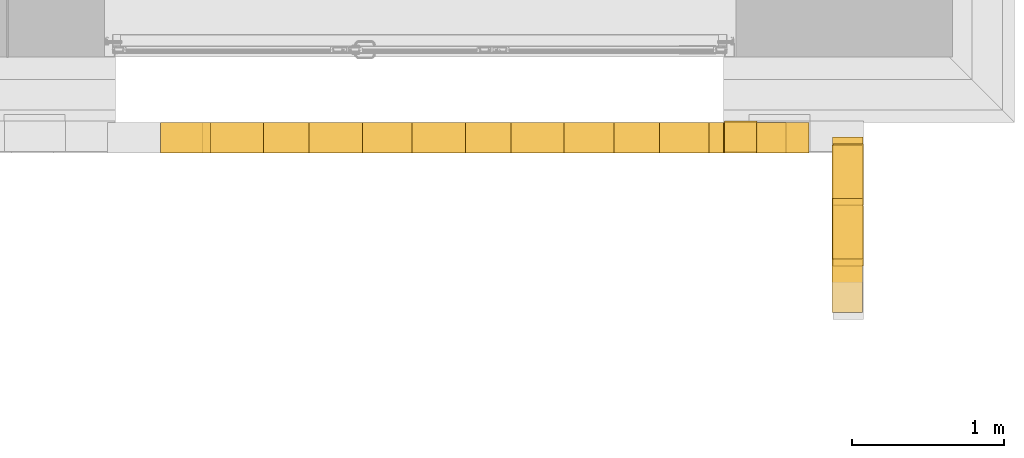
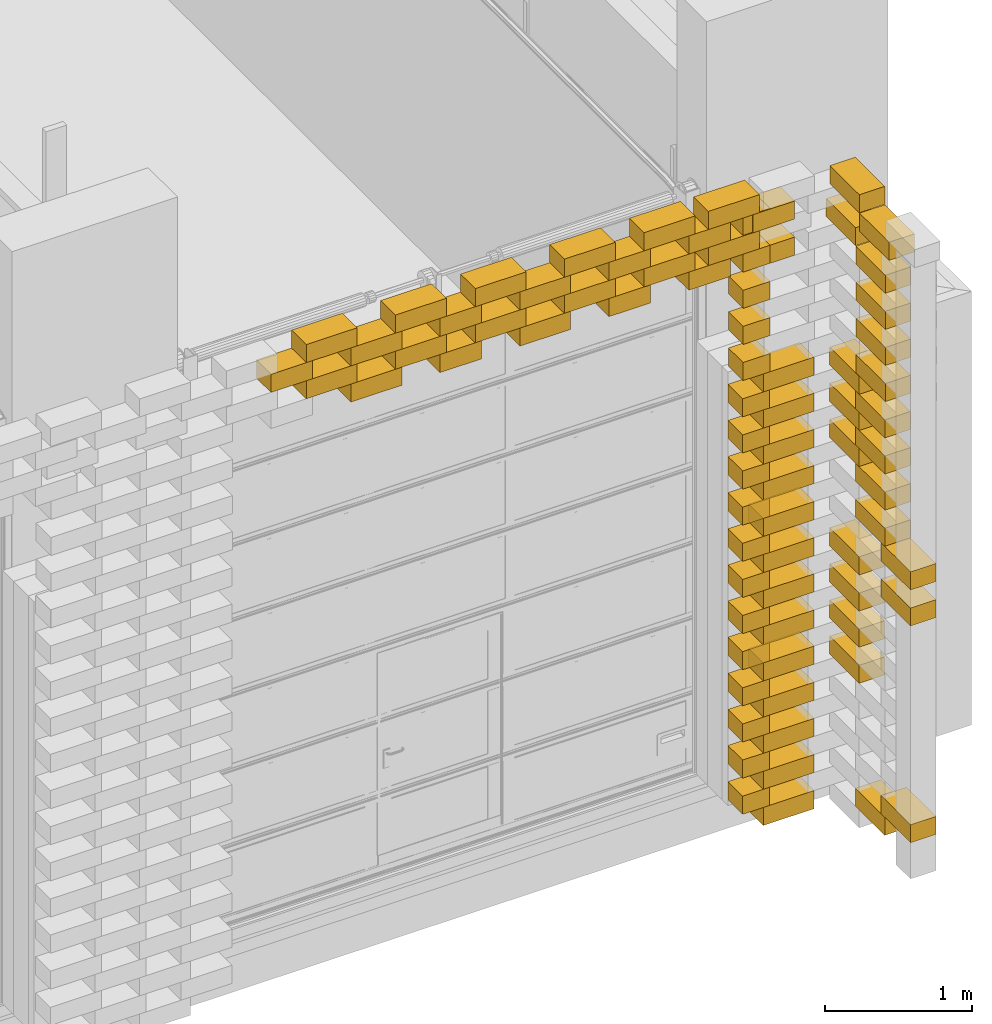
# One storey, part 56 of 62: 79 railings.
"""IFC2X3 building model written with IfcOpenShell, lengths in millimetres."""

from ifc_helpers import new_model, entity, si_unit, converted_unit, derived_unit, money_unit, direction, frame, origin_with_axes, place, context, subcontext, project, spatial, polyline, outline, extrude, material, type_object, element, save


model = new_model("IFC2X3")

# Units and contexts
model_context = context("Model", 3, precision=0.01, world=origin_with_axes(), true_north=direction((0.0, 1.0)))
body_context = subcontext(model_context, "Body", "Model", "MODEL_VIEW")
ifc_project = project(units=[si_unit("LENGTHUNIT", "METRE", prefix="MILLI"), si_unit("AREAUNIT", "SQUARE_METRE"), si_unit("VOLUMEUNIT", "CUBIC_METRE"), converted_unit("PLANEANGLEUNIT", "DEGREE", entity("IfcPlaneAngleMeasure", 0.0174532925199), si_unit("PLANEANGLEUNIT", "RADIAN"), dimensions=[0, 0, 0, 0, 0, 0, 0]), si_unit("SOLIDANGLEUNIT", "STERADIAN"), money_unit("EUR"), converted_unit("TIMEUNIT", "Year", entity("IfcTimeMeasure", 31556926.0), si_unit("TIMEUNIT", "SECOND"), dimensions=[0, 0, 1, 0, 0, 0, 0]), si_unit("MASSUNIT", "GRAM", prefix="KILO"), si_unit("THERMODYNAMICTEMPERATUREUNIT", "DEGREE_CELSIUS"), si_unit("LUMINOUSINTENSITYUNIT", "LUMEN"), si_unit("ENERGYUNIT", "JOULE", prefix="MEGA"), derived_unit("THERMALCONDUCTANCEUNIT", [(si_unit("POWERUNIT", "WATT"), 1), (si_unit("LENGTHUNIT", "METRE"), -1), (si_unit("THERMODYNAMICTEMPERATUREUNIT", "KELVIN"), -1)]), derived_unit("SPECIFICHEATCAPACITYUNIT", [(si_unit("ENERGYUNIT", "JOULE"), 1), (si_unit("MASSUNIT", "GRAM", prefix="KILO"), -1), (si_unit("THERMODYNAMICTEMPERATUREUNIT", "KELVIN"), -1)]), derived_unit("MASSDENSITYUNIT", [(si_unit("MASSUNIT", "GRAM", prefix="KILO"), 1), (si_unit("VOLUMEUNIT", "CUBIC_METRE"), -1)])], contexts=[model_context])

# Site, building, storey
site_placement = place(None, origin_with_axes())
site = spatial("IfcSite", under=ifc_project, at=site_placement, Name="KIRDE 14, ELVA", CompositionType="ELEMENT")
building_placement = place(site_placement, origin_with_axes())
building = spatial("IfcBuilding", under=site, at=building_placement, Name="PPA ja Päästeameti ühishoone", CompositionType="ELEMENT")
storey_placement = place(building_placement, origin_with_axes())
storey = spatial("IfcBuildingStorey", under=building, at=storey_placement, Name="Esimene korrus", CompositionType="ELEMENT", Elevation=0.0)

# Railings
ifc_material = material(Name="Air Space")
railing_type = type_object("IfcRailingType", Name="Air Space 200", PredefinedType="NOTDEFINED")
railing_1_placement = place(storey_placement, frame((38722.9681009, -431.00009935, 2300.0), z_axis=(0.0, 0.0, 1.0), x_axis=(1.0, 0.0, 0.0)))
element("IfcRailing", 1, at=railing_1_placement, inside=storey, type_object=railing_type, material=ifc_material, Name="plokk", PredefinedType="NOTDEFINED", context=body_context, shape_type="SweptSolid", body=[
    extrude(outline(polyline([(0.0, -200.0), (400.000000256, -200.0), (400.000000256, 0.0), (0.0, 0.0), (0.0, -200.0)])), origin_with_axes(), (0.0, 0.0, 1.0), 150.0),
])
for number, where, z_axis, x_axis in (
    (2, (39472.9681008, -931.000098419, 3050.0), (0.0, 0.0, 1.0), (7.27595759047e-10, -1.0, 0.0)),
    (3, (39479.506899, -976.365015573, 4850.0), (0.0, 0.0, 1.0), (7.27595759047e-10, -1.0, 0.0)),
):
    element("IfcRailing", number, at=place(storey_placement, frame(where, z_axis=z_axis, x_axis=x_axis)), inside=storey, type_object=railing_type, material=ifc_material, Name="plokk", PredefinedType="NOTDEFINED", context=body_context, shape_type="SweptSolid", body=[
        extrude(outline(polyline([(0.0, -200.0), (400.000001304, -200.0), (400.000001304, 0.0), (0.0, 0.0), (0.0, -200.0)])), origin_with_axes(), (0.0, 0.0, 1.0), 150.0),
    ])
railing_2_placement = place(storey_placement, frame((36810.2443816, -431.000095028, 4850.0), z_axis=(0.0, 0.0, 1.0), x_axis=(1.0, -2.32830643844e-09, 0.0)))
element("IfcRailing", 4, at=railing_2_placement, inside=storey, type_object=railing_type, material=ifc_material, Name="plokk", PredefinedType="NOTDEFINED", context=body_context, shape_type="SweptSolid", body=[
    extrude(outline(polyline([(0.0, -200.0), (399.999999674, -200.0), (399.999999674, 0.0), (0.0, 0.0), (0.0, -200.0)])), origin_with_axes(), (0.0, 0.0, 1.0), 150.0),
])
railing_3_placement = place(storey_placement, frame((39479.5068987, -572.760598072, 5000.0), z_axis=(0.0, 0.0, 1.0), x_axis=(-5.82076611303e-10, -1.0, 0.0)))
element("IfcRailing", 5, at=railing_3_placement, inside=storey, type_object=railing_type, material=ifc_material, Name="plokk", PredefinedType="NOTDEFINED", context=body_context, shape_type="SweptSolid", body=[
    extrude(outline(polyline([(0.0, -200.0), (399.99999851, -200.0), (399.99999851, 0.0), (0.0, 0.0), (0.0, -200.0)])), origin_with_axes(), (0.0, 0.0, 1.0), 150.0),
])
railing_4_placement = place(storey_placement, frame((39472.9681012, -1281.00009805, 2000.0), z_axis=(0.0, 0.0, 1.0), x_axis=(2.91038303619e-10, -1.0, 0.0)))
element("IfcRailing", 6, at=railing_4_placement, inside=storey, type_object=railing_type, material=ifc_material, Name="plokk", PredefinedType="NOTDEFINED", context=body_context, shape_type="SweptSolid", body=[
    extrude(outline(polyline([(0.0, -200.0), (400.000001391, -200.0), (400.000001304, 0.0), (0.0, 0.0), (0.0, -200.0)])), origin_with_axes(), (0.0, 0.0, 1.0), 150.0),
])
for number, where, z_axis, x_axis in (
    (7, (38560.5971019, -431.000098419, 3350.0), (0.0, 0.0, 1.0), (1.0, -8.77071331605e-09, 0.0)),
    (8, (38560.5971019, -431.000098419, 3050.0), (0.0, 0.0, 1.0), (1.0, -8.77071331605e-09, 0.0)),
    (9, (38560.5971019, -431.000098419, 2750.0), (0.0, 0.0, 1.0), (1.0, -8.77071331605e-09, 0.0)),
):
    element("IfcRailing", number, at=place(storey_placement, frame(where, z_axis=z_axis, x_axis=x_axis)), inside=storey, type_object=railing_type, material=ifc_material, Name="plokk", PredefinedType="NOTDEFINED", context=body_context, shape_type="SweptSolid", body=[
        extrude(outline(polyline([(0.0, -200.0), (212.370999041, -200.0), (212.370999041, 0.0), (0.0, 0.0), (0.0, -200.0)])), origin_with_axes(), (0.0, 0.0, 1.0), 150.0),
    ])
railing_5_placement = place(storey_placement, frame((39472.9681005, -581.000099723, 1700.0), z_axis=(0.0, 0.0, 1.0), x_axis=(-5.82076611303e-10, -1.0, 0.0)))
element("IfcRailing", 10, at=railing_5_placement, inside=storey, type_object=railing_type, material=ifc_material, Name="plokk", PredefinedType="NOTDEFINED", context=body_context, shape_type="SweptSolid", body=[
    extrude(outline(polyline([(0.0, -200.0), (399.99999851, -200.0), (399.99999851, 0.0), (0.0, 0.0), (0.0, -200.0)])), origin_with_axes(), (0.0, 0.0, 1.0), 150.0),
])
railing_6_placement = place(storey_placement, frame((35483.0397453, -431.000095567, 4850.0), z_axis=(0.0, 0.0, 1.0), x_axis=(1.0, -2.32830643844e-09, 0.0)))
element("IfcRailing", 11, at=railing_6_placement, inside=storey, type_object=railing_type, material=ifc_material, Name="plokk", PredefinedType="NOTDEFINED", context=body_context, shape_type="SweptSolid", body=[
    extrude(outline(polyline([(0.0, -200.0), (399.999999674, -200.0), (399.999999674, 0.0), (0.0, 0.0), (0.0, -200.0)])), origin_with_axes(), (0.0, 0.0, 1.0), 150.0),
])
railing_7_placement = place(storey_placement, frame((39472.9681005, -581.000099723, 3500.0), z_axis=(0.0, 0.0, 1.0), x_axis=(-5.82076611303e-10, -1.0, 0.0)))
element("IfcRailing", 12, at=railing_7_placement, inside=storey, type_object=railing_type, material=ifc_material, Name="plokk", PredefinedType="NOTDEFINED", context=body_context, shape_type="SweptSolid", body=[
    extrude(outline(polyline([(0.0, -200.0), (399.99999851, -200.0), (399.99999851, 0.0), (0.0, 0.0), (0.0, -200.0)])), origin_with_axes(), (0.0, 0.0, 1.0), 150.0),
])
railing_8_placement = place(storey_placement, frame((38722.9681009, -431.00009935, 3500.0), z_axis=(0.0, 0.0, 1.0), x_axis=(1.0, 0.0, 0.0)))
element("IfcRailing", 13, at=railing_8_placement, inside=storey, type_object=railing_type, material=ifc_material, Name="plokk", PredefinedType="NOTDEFINED", context=body_context, shape_type="SweptSolid", body=[
    extrude(outline(polyline([(0.0, -200.0), (400.000000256, -200.0), (400.000000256, 0.0), (0.0, 0.0), (0.0, -200.0)])), origin_with_axes(), (0.0, 0.0, 1.0), 150.0),
])
for number, where, z_axis, x_axis in (
    (14, (39476.5679148, -931.000098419, 3650.0), (0.0, 0.0, 1.0), (7.27595759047e-10, -1.0, 0.0)),
    (15, (39476.5679148, -931.000098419, 4250.0), (0.0, 0.0, 1.0), (7.27595759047e-10, -1.0, 0.0)),
    (16, (39472.9681008, -931.000098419, 3350.0), (0.0, 0.0, 1.0), (7.27595759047e-10, -1.0, 0.0)),
):
    element("IfcRailing", number, at=place(storey_placement, frame(where, z_axis=z_axis, x_axis=x_axis)), inside=storey, type_object=railing_type, material=ifc_material, Name="plokk", PredefinedType="NOTDEFINED", context=body_context, shape_type="SweptSolid", body=[
        extrude(outline(polyline([(0.0, -200.0), (400.000001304, -200.0), (400.000001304, 0.0), (0.0, 0.0), (0.0, -200.0)])), origin_with_axes(), (0.0, 0.0, 1.0), 150.0),
    ])
railing_9_placement = place(storey_placement, frame((36183.0397446, -431.000094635, 4550.0), z_axis=(0.0, 0.0, 1.0), x_axis=(1.0, 0.0, 0.0)))
element("IfcRailing", 17, at=railing_9_placement, inside=storey, type_object=railing_type, material=ifc_material, Name="plokk", PredefinedType="NOTDEFINED", context=body_context, shape_type="SweptSolid", body=[
    extrude(outline(polyline([(0.0, -200.0), (327.204635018, -200.0), (327.204635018, 0.0), (0.0, 0.0), (0.0, -200.0)])), origin_with_axes(), (0.0, 0.0, 1.0), 150.0),
])
for number, where, z_axis, x_axis in (
    (18, (36460.2443799, -431.000091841, 4700.0), (0.0, 0.0, 1.0), (1.0, -2.32830643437e-09, 0.0)),
    (19, (35833.0397448, -431.000093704, 5000.0), (0.0, 0.0, 1.0), (1.0, -2.32830643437e-09, 0.0)),
    (20, (36460.2443799, -431.000091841, 5000.0), (0.0, 0.0, 1.0), (1.0, -2.32830643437e-09, 0.0)),
    (21, (35133.0397437, -431.000092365, 4700.0), (0.0, 0.0, 1.0), (1.0, -2.32830643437e-09, 0.0)),
):
    element("IfcRailing", number, at=place(storey_placement, frame(where, z_axis=z_axis, x_axis=x_axis)), inside=storey, type_object=railing_type, material=ifc_material, Name="plokk", PredefinedType="NOTDEFINED", context=body_context, shape_type="SweptSolid", body=[
        extrude(outline(polyline([(0.0, -200.0), (400.000000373, -200.0), (400.000000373, 0.0), (0.0, 0.0), (0.0, -200.0)])), origin_with_axes(), (0.0, 0.0, 1.0), 150.0),
    ])
railing_10_placement = place(storey_placement, frame((36810.2443816, -431.000095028, 4550.0), z_axis=(0.0, 0.0, 1.0), x_axis=(1.0, -2.32830643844e-09, 0.0)))
element("IfcRailing", 22, at=railing_10_placement, inside=storey, type_object=railing_type, material=ifc_material, Name="plokk", PredefinedType="NOTDEFINED", context=body_context, shape_type="SweptSolid", body=[
    extrude(outline(polyline([(0.0, -200.0), (399.999999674, -200.0), (399.999999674, 0.0), (0.0, 0.0), (0.0, -200.0)])), origin_with_axes(), (0.0, 0.0, 1.0), 150.0),
])
railing_11_placement = place(storey_placement, frame((37510.2443808, -431.000094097, 4550.0), z_axis=(0.0, 0.0, 1.0), x_axis=(1.0, 0.0, 0.0)))
element("IfcRailing", 23, at=railing_11_placement, inside=storey, type_object=railing_type, material=ifc_material, Name="plokk", PredefinedType="NOTDEFINED", context=body_context, shape_type="SweptSolid", body=[
    extrude(outline(polyline([(0.0, -200.0), (327.204635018, -200.0), (327.204635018, 0.0), (0.0, 0.0), (0.0, -200.0)])), origin_with_axes(), (0.0, 0.0, 1.0), 150.0),
])
railing_12_placement = place(storey_placement, frame((37160.2443811, -431.000093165, 4700.0), z_axis=(0.0, 0.0, 1.0), x_axis=(1.0, -2.32830643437e-09, 0.0)))
element("IfcRailing", 24, at=railing_12_placement, inside=storey, type_object=railing_type, material=ifc_material, Name="plokk", PredefinedType="NOTDEFINED", context=body_context, shape_type="SweptSolid", body=[
    extrude(outline(polyline([(0.0, -200.0), (400.000000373, -200.0), (400.000000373, 0.0), (0.0, 0.0), (0.0, -200.0)])), origin_with_axes(), (0.0, 0.0, 1.0), 150.0),
])
railing_13_placement = place(storey_placement, frame((34855.8351083, -431.000095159, 4850.0), z_axis=(0.0, 0.0, 1.0), x_axis=(1.0, 0.0, 0.0)))
element("IfcRailing", 25, at=railing_13_placement, inside=storey, type_object=railing_type, material=ifc_material, Name="plokk", PredefinedType="NOTDEFINED", context=body_context, shape_type="SweptSolid", body=[
    extrude(outline(polyline([(0.0, -200.0), (327.204635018, -200.0), (327.204635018, 0.0), (0.0, 0.0), (0.0, -200.0)])), origin_with_axes(), (0.0, 0.0, 1.0), 150.0),
])
railing_14_placement = place(storey_placement, frame((35833.0397448, -431.000093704, 4700.0), z_axis=(0.0, 0.0, 1.0), x_axis=(1.0, -2.32830643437e-09, 0.0)))
element("IfcRailing", 26, at=railing_14_placement, inside=storey, type_object=railing_type, material=ifc_material, Name="plokk", PredefinedType="NOTDEFINED", context=body_context, shape_type="SweptSolid", body=[
    extrude(outline(polyline([(0.0, -200.0), (400.000000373, -200.0), (400.000000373, 0.0), (0.0, 0.0), (0.0, -200.0)])), origin_with_axes(), (0.0, 0.0, 1.0), 150.0),
])
railing_15_placement = place(storey_placement, frame((39476.5679148, -931.000098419, 4550.0), z_axis=(0.0, 0.0, 1.0), x_axis=(7.27595759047e-10, -1.0, 0.0)))
element("IfcRailing", 27, at=railing_15_placement, inside=storey, type_object=railing_type, material=ifc_material, Name="plokk", PredefinedType="NOTDEFINED", context=body_context, shape_type="SweptSolid", body=[
    extrude(outline(polyline([(0.0, -200.0), (400.000001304, -200.0), (400.000001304, 0.0), (0.0, 0.0), (0.0, -200.0)])), origin_with_axes(), (0.0, 0.0, 1.0), 150.0),
])
railing_16_placement = place(storey_placement, frame((38567.1359001, -422.760596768, 4850.0), z_axis=(0.0, 0.0, 1.0), x_axis=(1.0, -8.77071331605e-09, 0.0)))
element("IfcRailing", 28, at=railing_16_placement, inside=storey, type_object=railing_type, material=ifc_material, Name="plokk", PredefinedType="NOTDEFINED", context=body_context, shape_type="SweptSolid", body=[
    extrude(outline(polyline([(0.0, -200.0), (212.370999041, -200.0), (212.370999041, 0.0), (0.0, 0.0), (0.0, -200.0)])), origin_with_axes(), (0.0, 0.0, 1.0), 150.0),
])
railing_17_placement = place(storey_placement, frame((39476.5679148, -931.000098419, 3950.0), z_axis=(0.0, 0.0, 1.0), x_axis=(7.27595759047e-10, -1.0, 0.0)))
element("IfcRailing", 29, at=railing_17_placement, inside=storey, type_object=railing_type, material=ifc_material, Name="plokk", PredefinedType="NOTDEFINED", context=body_context, shape_type="SweptSolid", body=[
    extrude(outline(polyline([(0.0, -200.0), (400.000001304, -200.0), (400.000001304, 0.0), (0.0, 0.0), (0.0, -200.0)])), origin_with_axes(), (0.0, 0.0, 1.0), 150.0),
])
railing_18_placement = place(storey_placement, frame((39476.5679145, -527.395680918, 4700.0), z_axis=(0.0, 0.0, 1.0), x_axis=(-5.82076611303e-10, -1.0, 0.0)))
element("IfcRailing", 30, at=railing_18_placement, inside=storey, type_object=railing_type, material=ifc_material, Name="plokk", PredefinedType="NOTDEFINED", context=body_context, shape_type="SweptSolid", body=[
    extrude(outline(polyline([(0.0, -200.0), (399.99999851, -200.0), (399.99999851, 0.0), (0.0, 0.0), (0.0, -200.0)])), origin_with_axes(), (0.0, 0.0, 1.0), 150.0),
])
railing_19_placement = place(storey_placement, frame((39472.9681008, -931.000098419, 2750.0), z_axis=(0.0, 0.0, 1.0), x_axis=(7.27595759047e-10, -1.0, 0.0)))
element("IfcRailing", 31, at=railing_19_placement, inside=storey, type_object=railing_type, material=ifc_material, Name="plokk", PredefinedType="NOTDEFINED", context=body_context, shape_type="SweptSolid", body=[
    extrude(outline(polyline([(0.0, -200.0), (400.000001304, -200.0), (400.000001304, 0.0), (0.0, 0.0), (0.0, -200.0)])), origin_with_axes(), (0.0, 0.0, 1.0), 150.0),
])
railing_20_placement = place(storey_placement, frame((36183.0397446, -431.000094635, 4850.0), z_axis=(0.0, 0.0, 1.0), x_axis=(1.0, 0.0, 0.0)))
element("IfcRailing", 32, at=railing_20_placement, inside=storey, type_object=railing_type, material=ifc_material, Name="plokk", PredefinedType="NOTDEFINED", context=body_context, shape_type="SweptSolid", body=[
    extrude(outline(polyline([(0.0, -200.0), (327.204635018, -200.0), (327.204635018, 0.0), (0.0, 0.0), (0.0, -200.0)])), origin_with_axes(), (0.0, 0.0, 1.0), 150.0),
])
railing_21_placement = place(storey_placement, frame((39472.9681008, -931.000098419, 2450.0), z_axis=(0.0, 0.0, 1.0), x_axis=(7.27595759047e-10, -1.0, 0.0)))
element("IfcRailing", 33, at=railing_21_placement, inside=storey, type_object=railing_type, material=ifc_material, Name="plokk", PredefinedType="NOTDEFINED", context=body_context, shape_type="SweptSolid", body=[
    extrude(outline(polyline([(0.0, -200.0), (400.000001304, -200.0), (400.000001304, 0.0), (0.0, 0.0), (0.0, -200.0)])), origin_with_axes(), (0.0, 0.0, 1.0), 150.0),
])
for number, where, z_axis, x_axis in (
    (34, (38564.1969159, -431.000098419, 4550.0), (0.0, 0.0, 1.0), (1.0, -8.77071331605e-09, 0.0)),
    (35, (38564.1969159, -431.000098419, 4250.0), (0.0, 0.0, 1.0), (1.0, -8.77071331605e-09, 0.0)),
):
    element("IfcRailing", number, at=place(storey_placement, frame(where, z_axis=z_axis, x_axis=x_axis)), inside=storey, type_object=railing_type, material=ifc_material, Name="plokk", PredefinedType="NOTDEFINED", context=body_context, shape_type="SweptSolid", body=[
        extrude(outline(polyline([(0.0, -200.0), (212.370999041, -200.0), (212.370999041, 0.0), (0.0, 0.0), (0.0, -200.0)])), origin_with_axes(), (0.0, 0.0, 1.0), 150.0),
    ])
railing_22_placement = place(storey_placement, frame((39472.9681005, -581.000099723, 3200.0), z_axis=(0.0, 0.0, 1.0), x_axis=(-5.82076611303e-10, -1.0, 0.0)))
element("IfcRailing", 36, at=railing_22_placement, inside=storey, type_object=railing_type, material=ifc_material, Name="plokk", PredefinedType="NOTDEFINED", context=body_context, shape_type="SweptSolid", body=[
    extrude(outline(polyline([(0.0, -200.0), (399.99999851, -200.0), (399.99999851, 0.0), (0.0, 0.0), (0.0, -200.0)])), origin_with_axes(), (0.0, 0.0, 1.0), 150.0),
])
railing_23_placement = place(storey_placement, frame((38722.9681009, -431.00009935, 3200.0), z_axis=(0.0, 0.0, 1.0), x_axis=(1.0, 0.0, 0.0)))
element("IfcRailing", 37, at=railing_23_placement, inside=storey, type_object=railing_type, material=ifc_material, Name="plokk", PredefinedType="NOTDEFINED", context=body_context, shape_type="SweptSolid", body=[
    extrude(outline(polyline([(0.0, -200.0), (400.000000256, -200.0), (400.000000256, 0.0), (0.0, 0.0), (0.0, -200.0)])), origin_with_axes(), (0.0, 0.0, 1.0), 150.0),
])
railing_24_placement = place(storey_placement, frame((39472.9681005, -581.000099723, 2900.0), z_axis=(0.0, 0.0, 1.0), x_axis=(-5.82076611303e-10, -1.0, 0.0)))
element("IfcRailing", 38, at=railing_24_placement, inside=storey, type_object=railing_type, material=ifc_material, Name="plokk", PredefinedType="NOTDEFINED", context=body_context, shape_type="SweptSolid", body=[
    extrude(outline(polyline([(0.0, -200.0), (399.99999851, -200.0), (399.99999851, 0.0), (0.0, 0.0), (0.0, -200.0)])), origin_with_axes(), (0.0, 0.0, 1.0), 150.0),
])
for number, where, z_axis, x_axis in (
    (39, (38722.9681009, -431.00009935, 1400.0), (0.0, 0.0, 1.0), (1.0, 0.0, 0.0)),
    (40, (38722.9681009, -431.00009935, 1700.0), (0.0, 0.0, 1.0), (1.0, 0.0, 0.0)),
):
    element("IfcRailing", number, at=place(storey_placement, frame(where, z_axis=z_axis, x_axis=x_axis)), inside=storey, type_object=railing_type, material=ifc_material, Name="plokk", PredefinedType="NOTDEFINED", context=body_context, shape_type="SweptSolid", body=[
        extrude(outline(polyline([(0.0, -200.0), (400.000000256, -200.0), (400.000000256, 0.0), (0.0, 0.0), (0.0, -200.0)])), origin_with_axes(), (0.0, 0.0, 1.0), 150.0),
    ])
railing_25_placement = place(storey_placement, frame((39472.9681005, -581.000099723, 1400.0), z_axis=(0.0, 0.0, 1.0), x_axis=(-5.82076611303e-10, -1.0, 0.0)))
element("IfcRailing", 41, at=railing_25_placement, inside=storey, type_object=railing_type, material=ifc_material, Name="plokk", PredefinedType="NOTDEFINED", context=body_context, shape_type="SweptSolid", body=[
    extrude(outline(polyline([(0.0, -200.0), (399.99999851, -200.0), (399.99999851, 0.0), (0.0, 0.0), (0.0, -200.0)])), origin_with_axes(), (0.0, 0.0, 1.0), 150.0),
])
railing_26_placement = place(storey_placement, frame((38137.4490159, -431.000093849, 4850.0), z_axis=(0.0, 0.0, 1.0), x_axis=(1.0, 0.0, 0.0)))
element("IfcRailing", 42, at=railing_26_placement, inside=storey, type_object=railing_type, material=ifc_material, Name="plokk", PredefinedType="NOTDEFINED", context=body_context, shape_type="SweptSolid", body=[
    extrude(outline(polyline([(0.0, -200.0), (327.204635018, -200.0), (327.204635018, 0.0), (0.0, 0.0), (0.0, -200.0)])), origin_with_axes(), (0.0, 0.0, 1.0), 150.0),
])
railing_27_placement = place(storey_placement, frame((38722.9681009, -431.00009935, 2000.0), z_axis=(0.0, 0.0, 1.0), x_axis=(1.0, 0.0, 0.0)))
element("IfcRailing", 43, at=railing_27_placement, inside=storey, type_object=railing_type, material=ifc_material, Name="plokk", PredefinedType="NOTDEFINED", context=body_context, shape_type="SweptSolid", body=[
    extrude(outline(polyline([(0.0, -200.0), (400.000000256, -200.0), (400.000000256, 0.0), (0.0, 0.0), (0.0, -200.0)])), origin_with_axes(), (0.0, 0.0, 1.0), 150.0),
])
for number, where, z_axis, x_axis in (
    (44, (39472.9681005, -581.000099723, 2000.0), (0.0, 0.0, 1.0), (-5.82076611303e-10, -1.0, 0.0)),
    (45, (39472.9681005, -581.000099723, 1100.0), (0.0, 0.0, 1.0), (-5.82076611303e-10, -1.0, 0.0)),
):
    element("IfcRailing", number, at=place(storey_placement, frame(where, z_axis=z_axis, x_axis=x_axis)), inside=storey, type_object=railing_type, material=ifc_material, Name="plokk", PredefinedType="NOTDEFINED", context=body_context, shape_type="SweptSolid", body=[
        extrude(outline(polyline([(0.0, -200.0), (399.99999851, -200.0), (399.99999851, 0.0), (0.0, 0.0), (0.0, -200.0)])), origin_with_axes(), (0.0, 0.0, 1.0), 150.0),
    ])
railing_28_placement = place(storey_placement, frame((38722.9681009, -431.00009935, 1100.0), z_axis=(0.0, 0.0, 1.0), x_axis=(1.0, 0.0, 0.0)))
element("IfcRailing", 46, at=railing_28_placement, inside=storey, type_object=railing_type, material=ifc_material, Name="plokk", PredefinedType="NOTDEFINED", context=body_context, shape_type="SweptSolid", body=[
    extrude(outline(polyline([(0.0, -200.0), (400.000000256, -200.0), (400.000000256, 0.0), (0.0, 0.0), (0.0, -200.0)])), origin_with_axes(), (0.0, 0.0, 1.0), 150.0),
])
railing_29_placement = place(storey_placement, frame((39472.9681008, -931.000098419, 50.0), z_axis=(0.0, 0.0, 1.0), x_axis=(7.27595759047e-10, -1.0, 0.0)))
element("IfcRailing", 47, at=railing_29_placement, inside=storey, type_object=railing_type, material=ifc_material, Name="plokk", PredefinedType="NOTDEFINED", context=body_context, shape_type="SweptSolid", body=[
    extrude(outline(polyline([(0.0, -200.0), (400.000001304, -200.0), (400.000001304, 0.0), (0.0, 0.0), (0.0, -200.0)])), origin_with_axes(), (0.0, 0.0, 1.0), 150.0),
])
railing_30_placement = place(storey_placement, frame((39472.9681012, -1281.00009805, 2300.0), z_axis=(0.0, 0.0, 1.0), x_axis=(2.91038303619e-10, -1.0, 0.0)))
element("IfcRailing", 48, at=railing_30_placement, inside=storey, type_object=railing_type, material=ifc_material, Name="plokk", PredefinedType="NOTDEFINED", context=body_context, shape_type="SweptSolid", body=[
    extrude(outline(polyline([(0.0, -200.0), (400.000001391, -200.0), (400.000001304, 0.0), (0.0, 0.0), (0.0, -200.0)])), origin_with_axes(), (0.0, 0.0, 1.0), 150.0),
])
railing_31_placement = place(storey_placement, frame((38560.5971019, -431.000098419, 2450.0), z_axis=(0.0, 0.0, 1.0), x_axis=(1.0, -8.77071331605e-09, 0.0)))
element("IfcRailing", 49, at=railing_31_placement, inside=storey, type_object=railing_type, material=ifc_material, Name="plokk", PredefinedType="NOTDEFINED", context=body_context, shape_type="SweptSolid", body=[
    extrude(outline(polyline([(0.0, -200.0), (212.370999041, -200.0), (212.370999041, 0.0), (0.0, 0.0), (0.0, -200.0)])), origin_with_axes(), (0.0, 0.0, 1.0), 150.0),
])
railing_32_placement = place(storey_placement, frame((39472.9681012, -1281.00009805, 200.0), z_axis=(0.0, 0.0, 1.0), x_axis=(2.91038303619e-10, -1.0, 0.0)))
element("IfcRailing", 50, at=railing_32_placement, inside=storey, type_object=railing_type, material=ifc_material, Name="plokk", PredefinedType="NOTDEFINED", context=body_context, shape_type="SweptSolid", body=[
    extrude(outline(polyline([(0.0, -200.0), (400.000001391, -200.0), (400.000001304, 0.0), (0.0, 0.0), (0.0, -200.0)])), origin_with_axes(), (0.0, 0.0, 1.0), 150.0),
])
railing_33_placement = place(storey_placement, frame((38722.9681009, -431.00009935, 1100.0), z_axis=(0.0, 0.0, 1.0), x_axis=(1.0, 0.0, 0.0)))
element("IfcRailing", 51, at=railing_33_placement, inside=storey, type_object=railing_type, material=ifc_material, Name="plokk", PredefinedType="NOTDEFINED", context=body_context, shape_type="SweptSolid", body=[
    extrude(outline(polyline([(0.0, -200.0), (400.000000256, -200.0), (400.000000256, 0.0), (0.0, 0.0), (0.0, -200.0)])), origin_with_axes(), (0.0, 0.0, 1.0), 150.0),
])
railing_34_placement = place(storey_placement, frame((37787.4490161, -431.000091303, 4700.0), z_axis=(0.0, 0.0, 1.0), x_axis=(1.0, -2.32830643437e-09, 0.0)))
element("IfcRailing", 52, at=railing_34_placement, inside=storey, type_object=railing_type, material=ifc_material, Name="plokk", PredefinedType="NOTDEFINED", context=body_context, shape_type="SweptSolid", body=[
    extrude(outline(polyline([(0.0, -200.0), (400.000000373, -200.0), (400.000000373, 0.0), (0.0, 0.0), (0.0, -200.0)])), origin_with_axes(), (0.0, 0.0, 1.0), 150.0),
])
railing_35_placement = place(storey_placement, frame((38641.7479895, -431.000093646, 4850.0), z_axis=(0.0, 0.0, 1.0), x_axis=(1.0, 0.0, 0.0)))
element("IfcRailing", 53, at=railing_35_placement, inside=storey, type_object=railing_type, material=ifc_material, Name="plokk", PredefinedType="NOTDEFINED", context=body_context, shape_type="SweptSolid", body=[
    extrude(outline(polyline([(0.0, -200.0), (327.204635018, -200.0), (327.204635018, 0.0), (0.0, 0.0), (0.0, -200.0)])), origin_with_axes(), (0.0, 0.0, 1.0), 150.0),
])
for number, where, z_axis, x_axis in (
    (54, (38291.7479897, -431.000091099, 4700.0), (0.0, 0.0, 1.0), (1.0, -2.32830643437e-09, 0.0)),
    (55, (38291.7479897, -431.000091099, 5000.0), (0.0, 0.0, 1.0), (1.0, -2.32830643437e-09, 0.0)),
):
    element("IfcRailing", number, at=place(storey_placement, frame(where, z_axis=z_axis, x_axis=x_axis)), inside=storey, type_object=railing_type, material=ifc_material, Name="plokk", PredefinedType="NOTDEFINED", context=body_context, shape_type="SweptSolid", body=[
        extrude(outline(polyline([(0.0, -200.0), (400.000000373, -200.0), (400.000000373, 0.0), (0.0, 0.0), (0.0, -200.0)])), origin_with_axes(), (0.0, 0.0, 1.0), 150.0),
    ])
for number, where, z_axis, x_axis in (
    (56, (38641.7479895, -431.000093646, 4550.0), (0.0, 0.0, 1.0), (1.0, 0.0, 0.0)),
    (57, (37510.2443808, -431.000094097, 4850.0), (0.0, 0.0, 1.0), (1.0, 0.0, 0.0)),
):
    element("IfcRailing", number, at=place(storey_placement, frame(where, z_axis=z_axis, x_axis=x_axis)), inside=storey, type_object=railing_type, material=ifc_material, Name="plokk", PredefinedType="NOTDEFINED", context=body_context, shape_type="SweptSolid", body=[
        extrude(outline(polyline([(0.0, -200.0), (327.204635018, -200.0), (327.204635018, 0.0), (0.0, 0.0), (0.0, -200.0)])), origin_with_axes(), (0.0, 0.0, 1.0), 150.0),
    ])
railing_36_placement = place(storey_placement, frame((37160.2443811, -431.000093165, 5000.0), z_axis=(0.0, 0.0, 1.0), x_axis=(1.0, -2.32830643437e-09, 0.0)))
element("IfcRailing", 58, at=railing_36_placement, inside=storey, type_object=railing_type, material=ifc_material, Name="plokk", PredefinedType="NOTDEFINED", context=body_context, shape_type="SweptSolid", body=[
    extrude(outline(polyline([(0.0, -200.0), (400.000000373, -200.0), (400.000000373, 0.0), (0.0, 0.0), (0.0, -200.0)])), origin_with_axes(), (0.0, 0.0, 1.0), 150.0),
])
for number, where, z_axis, x_axis in (
    (59, (38564.1969159, -431.000098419, 3950.0), (0.0, 0.0, 1.0), (1.0, -8.77071331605e-09, 0.0)),
    (60, (38564.1969159, -431.000098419, 3650.0), (0.0, 0.0, 1.0), (1.0, -8.77071331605e-09, 0.0)),
):
    element("IfcRailing", number, at=place(storey_placement, frame(where, z_axis=z_axis, x_axis=x_axis)), inside=storey, type_object=railing_type, material=ifc_material, Name="plokk", PredefinedType="NOTDEFINED", context=body_context, shape_type="SweptSolid", body=[
        extrude(outline(polyline([(0.0, -200.0), (212.370999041, -200.0), (212.370999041, 0.0), (0.0, 0.0), (0.0, -200.0)])), origin_with_axes(), (0.0, 0.0, 1.0), 150.0),
    ])
railing_37_placement = place(storey_placement, frame((38137.4490159, -431.000093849, 4550.0), z_axis=(0.0, 0.0, 1.0), x_axis=(1.0, 0.0, 0.0)))
element("IfcRailing", 61, at=railing_37_placement, inside=storey, type_object=railing_type, material=ifc_material, Name="plokk", PredefinedType="NOTDEFINED", context=body_context, shape_type="SweptSolid", body=[
    extrude(outline(polyline([(0.0, -200.0), (327.204635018, -200.0), (327.204635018, 0.0), (0.0, 0.0), (0.0, -200.0)])), origin_with_axes(), (0.0, 0.0, 1.0), 150.0),
])
for number, where, z_axis, x_axis in (
    (62, (38560.5971019, -431.000098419, 50.0), (0.0, 0.0, 1.0), (1.0, -8.77071331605e-09, 0.0)),
    (63, (38560.5971019, -431.000098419, 350.0), (0.0, 0.0, 1.0), (1.0, -8.77071331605e-09, 0.0)),
    (64, (38560.5971019, -431.000098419, 650.0), (0.0, 0.0, 1.0), (1.0, -8.77071331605e-09, 0.0)),
):
    element("IfcRailing", number, at=place(storey_placement, frame(where, z_axis=z_axis, x_axis=x_axis)), inside=storey, type_object=railing_type, material=ifc_material, Name="plokk", PredefinedType="NOTDEFINED", context=body_context, shape_type="SweptSolid", body=[
        extrude(outline(polyline([(0.0, -200.0), (212.370999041, -200.0), (212.370999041, 0.0), (0.0, 0.0), (0.0, -200.0)])), origin_with_axes(), (0.0, 0.0, 1.0), 150.0),
    ])
railing_38_placement = place(storey_placement, frame((37787.4490161, -431.000091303, 5000.0), z_axis=(0.0, 0.0, 1.0), x_axis=(1.0, -2.32830643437e-09, 0.0)))
element("IfcRailing", 65, at=railing_38_placement, inside=storey, type_object=railing_type, material=ifc_material, Name="plokk", PredefinedType="NOTDEFINED", context=body_context, shape_type="SweptSolid", body=[
    extrude(outline(polyline([(0.0, -200.0), (400.000000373, -200.0), (400.000000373, 0.0), (0.0, 0.0), (0.0, -200.0)])), origin_with_axes(), (0.0, 0.0, 1.0), 150.0),
])
railing_39_placement = place(storey_placement, frame((38560.5971019, -431.000098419, 950.0), z_axis=(0.0, 0.0, 1.0), x_axis=(1.0, -8.77071331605e-09, 0.0)))
element("IfcRailing", 66, at=railing_39_placement, inside=storey, type_object=railing_type, material=ifc_material, Name="plokk", PredefinedType="NOTDEFINED", context=body_context, shape_type="SweptSolid", body=[
    extrude(outline(polyline([(0.0, -200.0), (212.370999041, -200.0), (212.370999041, 0.0), (0.0, 0.0), (0.0, -200.0)])), origin_with_axes(), (0.0, 0.0, 1.0), 150.0),
])
railing_40_placement = place(storey_placement, frame((38722.9681009, -431.00009935, 200.0), z_axis=(0.0, 0.0, 1.0), x_axis=(1.0, 0.0, 0.0)))
element("IfcRailing", 67, at=railing_40_placement, inside=storey, type_object=railing_type, material=ifc_material, Name="plokk", PredefinedType="NOTDEFINED", context=body_context, shape_type="SweptSolid", body=[
    extrude(outline(polyline([(0.0, -200.0), (400.000000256, -200.0), (400.000000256, 0.0), (0.0, 0.0), (0.0, -200.0)])), origin_with_axes(), (0.0, 0.0, 1.0), 150.0),
])
railing_41_placement = place(storey_placement, frame((38560.5971019, -431.000098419, 2150.0), z_axis=(0.0, 0.0, 1.0), x_axis=(1.0, -8.77071331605e-09, 0.0)))
element("IfcRailing", 68, at=railing_41_placement, inside=storey, type_object=railing_type, material=ifc_material, Name="plokk", PredefinedType="NOTDEFINED", context=body_context, shape_type="SweptSolid", body=[
    extrude(outline(polyline([(0.0, -200.0), (212.370999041, -200.0), (212.370999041, 0.0), (0.0, 0.0), (0.0, -200.0)])), origin_with_axes(), (0.0, 0.0, 1.0), 150.0),
])
for number, where, z_axis, x_axis in (
    (69, (38722.9681009, -431.00009935, -100.0), (0.0, 0.0, 1.0), (1.0, 0.0, 0.0)),
    (70, (38722.9681009, -431.00009935, 800.0), (0.0, 0.0, 1.0), (1.0, 0.0, 0.0)),
    (71, (38722.9681009, -431.00009935, 500.0), (0.0, 0.0, 1.0), (1.0, 0.0, 0.0)),
):
    element("IfcRailing", number, at=place(storey_placement, frame(where, z_axis=z_axis, x_axis=x_axis)), inside=storey, type_object=railing_type, material=ifc_material, Name="plokk", PredefinedType="NOTDEFINED", context=body_context, shape_type="SweptSolid", body=[
        extrude(outline(polyline([(0.0, -200.0), (400.000000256, -200.0), (400.000000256, 0.0), (0.0, 0.0), (0.0, -200.0)])), origin_with_axes(), (0.0, 0.0, 1.0), 150.0),
    ])
railing_42_placement = place(storey_placement, frame((35483.0397453, -431.000095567, 4550.0), z_axis=(0.0, 0.0, 1.0), x_axis=(1.0, -2.32830643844e-09, 0.0)))
element("IfcRailing", 72, at=railing_42_placement, inside=storey, type_object=railing_type, material=ifc_material, Name="plokk", PredefinedType="NOTDEFINED", context=body_context, shape_type="SweptSolid", body=[
    extrude(outline(polyline([(0.0, -200.0), (399.999999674, -200.0), (399.999999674, 0.0), (0.0, 0.0), (0.0, -200.0)])), origin_with_axes(), (0.0, 0.0, 1.0), 150.0),
])
for number, where, z_axis, x_axis in (
    (73, (38560.5971019, -431.000098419, 1850.0), (0.0, 0.0, 1.0), (1.0, -8.77071331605e-09, 0.0)),
    (74, (38560.5971019, -431.000098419, 1550.0), (0.0, 0.0, 1.0), (1.0, -8.77071331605e-09, 0.0)),
    (75, (38560.5971019, -431.000098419, 1250.0), (0.0, 0.0, 1.0), (1.0, -8.77071331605e-09, 0.0)),
):
    element("IfcRailing", number, at=place(storey_placement, frame(where, z_axis=z_axis, x_axis=x_axis)), inside=storey, type_object=railing_type, material=ifc_material, Name="plokk", PredefinedType="NOTDEFINED", context=body_context, shape_type="SweptSolid", body=[
        extrude(outline(polyline([(0.0, -200.0), (212.370999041, -200.0), (212.370999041, 0.0), (0.0, 0.0), (0.0, -200.0)])), origin_with_axes(), (0.0, 0.0, 1.0), 150.0),
    ])
for number, where, z_axis, x_axis in (
    (76, (38722.9681009, -431.00009935, 2300.0), (0.0, 0.0, 1.0), (1.0, 0.0, 0.0)),
    (77, (38722.9681009, -431.00009935, 2600.0), (0.0, 0.0, 1.0), (1.0, 0.0, 0.0)),
):
    element("IfcRailing", number, at=place(storey_placement, frame(where, z_axis=z_axis, x_axis=x_axis)), inside=storey, type_object=railing_type, material=ifc_material, Name="plokk", PredefinedType="NOTDEFINED", context=body_context, shape_type="SweptSolid", body=[
        extrude(outline(polyline([(0.0, -200.0), (400.000000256, -200.0), (400.000000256, 0.0), (0.0, 0.0), (0.0, -200.0)])), origin_with_axes(), (0.0, 0.0, 1.0), 150.0),
    ])
railing_43_placement = place(storey_placement, frame((35133.0397437, -431.000092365, 5000.0), z_axis=(0.0, 0.0, 1.0), x_axis=(1.0, -2.32830643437e-09, 0.0)))
element("IfcRailing", 78, at=railing_43_placement, inside=storey, type_object=railing_type, material=ifc_material, Name="plokk", PredefinedType="NOTDEFINED", context=body_context, shape_type="SweptSolid", body=[
    extrude(outline(polyline([(0.0, -200.0), (400.000000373, -200.0), (400.000000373, 0.0), (0.0, 0.0), (0.0, -200.0)])), origin_with_axes(), (0.0, 0.0, 1.0), 150.0),
])
railing_44_placement = place(storey_placement, frame((38722.9681009, -431.00009935, 2900.0), z_axis=(0.0, 0.0, 1.0), x_axis=(1.0, 0.0, 0.0)))
element("IfcRailing", 79, at=railing_44_placement, inside=storey, type_object=railing_type, material=ifc_material, Name="plokk", PredefinedType="NOTDEFINED", context=body_context, shape_type="SweptSolid", body=[
    extrude(outline(polyline([(0.0, -200.0), (400.000000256, -200.0), (400.000000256, 0.0), (0.0, 0.0), (0.0, -200.0)])), origin_with_axes(), (0.0, 0.0, 1.0), 150.0),
])

save(model, "model.ifc")
